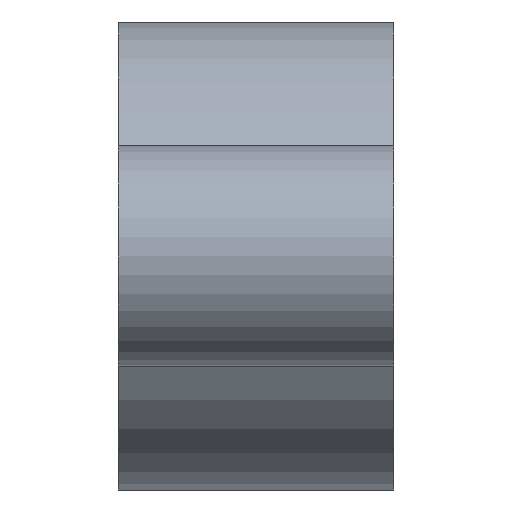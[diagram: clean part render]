
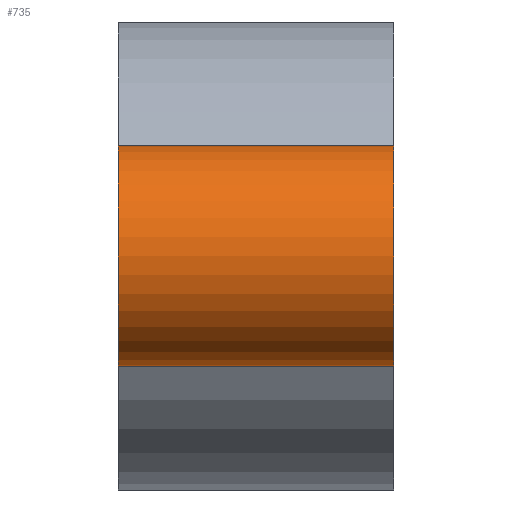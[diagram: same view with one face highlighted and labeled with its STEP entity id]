
A CAD part, front view. The second image highlights one B-rep face of the part: STEP entity #735.
In plain terms, the highlighted cylindrical face has radius 4 mm (diameter 8 mm), a partial arc.
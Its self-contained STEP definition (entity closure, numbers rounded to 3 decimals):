
#33 = PLANE('',#34);
#34 = AXIS2_PLACEMENT_3D('',#35,#36,#37);
#35 = CARTESIAN_POINT('',(-5.,0.,-6.));
#36 = DIRECTION('',(1.,0.,0.));
#37 = DIRECTION('',(0.,0.,1.));
#180 = VERTEX_POINT('',#181);
#181 = CARTESIAN_POINT('',(-5.,-15.,4.));
#195 = PLANE('',#196);
#196 = AXIS2_PLACEMENT_3D('',#197,#198,#199);
#197 = CARTESIAN_POINT('',(-5.,-15.,4.));
#198 = DIRECTION('',(0.,0.,1.));
#199 = DIRECTION('',(1.,0.,0.));
#207 = EDGE_CURVE('',#208,#180,#210,.T.);
#208 = VERTEX_POINT('',#209);
#209 = CARTESIAN_POINT('',(-5.,-15.,-4.));
#210 = SURFACE_CURVE('',#211,(#216,#227),.PCURVE_S1.);
#211 = CIRCLE('',#212,4.);
#212 = AXIS2_PLACEMENT_3D('',#213,#214,#215);
#213 = CARTESIAN_POINT('',(-5.,-15.,0.));
#214 = DIRECTION('',(-1.,-0.,-0.));
#215 = DIRECTION('',(0.,0.,-1.));
#216 = PCURVE('',#33,#217);
#217 = DEFINITIONAL_REPRESENTATION('',(#218),#226);
#218 = ( BOUNDED_CURVE() B_SPLINE_CURVE(2,(#219,#220,#221,#222,#223,#224
,#225),.UNSPECIFIED.,.T.,.F.) B_SPLINE_CURVE_WITH_KNOTS((1,2,2,2,2,1),(
    -2.094,0.,2.094,4.189,6.283,
8.378),.UNSPECIFIED.) CURVE() GEOMETRIC_REPRESENTATION_ITEM() 
RATIONAL_B_SPLINE_CURVE((1.,0.5,1.,0.5,1.,0.5,1.)) REPRESENTATION_ITEM(
  '') );
#219 = CARTESIAN_POINT('',(2.,15.));
#220 = CARTESIAN_POINT('',(2.,21.928));
#221 = CARTESIAN_POINT('',(8.,18.464));
#222 = CARTESIAN_POINT('',(14.,15.));
#223 = CARTESIAN_POINT('',(8.,11.536));
#224 = CARTESIAN_POINT('',(2.,8.072));
#225 = CARTESIAN_POINT('',(2.,15.));
#226 = ( GEOMETRIC_REPRESENTATION_CONTEXT(2) 
PARAMETRIC_REPRESENTATION_CONTEXT() REPRESENTATION_CONTEXT('2D SPACE',''
  ) );
#227 = PCURVE('',#228,#233);
#228 = CYLINDRICAL_SURFACE('',#229,4.);
#229 = AXIS2_PLACEMENT_3D('',#230,#231,#232);
#230 = CARTESIAN_POINT('',(-5.,-15.,0.));
#231 = DIRECTION('',(-1.,-0.,-0.));
#232 = DIRECTION('',(0.,-1.,0.));
#233 = DEFINITIONAL_REPRESENTATION('',(#234),#238);
#234 = LINE('',#235,#236);
#235 = CARTESIAN_POINT('',(-7.854,0.));
#236 = VECTOR('',#237,1.);
#237 = DIRECTION('',(1.,-0.));
#238 = ( GEOMETRIC_REPRESENTATION_CONTEXT(2) 
PARAMETRIC_REPRESENTATION_CONTEXT() REPRESENTATION_CONTEXT('2D SPACE',''
  ) );
#254 = PLANE('',#255);
#255 = AXIS2_PLACEMENT_3D('',#256,#257,#258);
#256 = CARTESIAN_POINT('',(-5.,-15.,-4.));
#257 = DIRECTION('',(0.,0.,1.));
#258 = DIRECTION('',(1.,0.,0.));
#468 = PLANE('',#469);
#469 = AXIS2_PLACEMENT_3D('',#470,#471,#472);
#470 = CARTESIAN_POINT('',(5.,0.,0.));
#471 = DIRECTION('',(1.,0.,0.));
#472 = DIRECTION('',(-0.,0.,1.));
#644 = EDGE_CURVE('',#208,#645,#647,.T.);
#645 = VERTEX_POINT('',#646);
#646 = CARTESIAN_POINT('',(5.,-15.,-4.));
#647 = SURFACE_CURVE('',#648,(#652,#659),.PCURVE_S1.);
#648 = LINE('',#649,#650);
#649 = CARTESIAN_POINT('',(-5.,-15.,-4.));
#650 = VECTOR('',#651,1.);
#651 = DIRECTION('',(1.,0.,0.));
#652 = PCURVE('',#254,#653);
#653 = DEFINITIONAL_REPRESENTATION('',(#654),#658);
#654 = LINE('',#655,#656);
#655 = CARTESIAN_POINT('',(0.,0.));
#656 = VECTOR('',#657,1.);
#657 = DIRECTION('',(1.,0.));
#658 = ( GEOMETRIC_REPRESENTATION_CONTEXT(2) 
PARAMETRIC_REPRESENTATION_CONTEXT() REPRESENTATION_CONTEXT('2D SPACE',''
  ) );
#659 = PCURVE('',#228,#660);
#660 = DEFINITIONAL_REPRESENTATION('',(#661),#664);
#661 = B_SPLINE_CURVE_WITH_KNOTS('',1,(#662,#663),.UNSPECIFIED.,.F.,.F.,
  (2,2),(0.,10.),.PIECEWISE_BEZIER_KNOTS.);
#662 = CARTESIAN_POINT('',(-7.854,0.));
#663 = CARTESIAN_POINT('',(-7.854,-10.));
#664 = ( GEOMETRIC_REPRESENTATION_CONTEXT(2) 
PARAMETRIC_REPRESENTATION_CONTEXT() REPRESENTATION_CONTEXT('2D SPACE',''
  ) );
#735 = ADVANCED_FACE('',(#736),#228,.T.);
#736 = FACE_BOUND('',#737,.F.);
#737 = EDGE_LOOP('',(#738,#739,#761,#783));
#738 = ORIENTED_EDGE('',*,*,#207,.T.);
#739 = ORIENTED_EDGE('',*,*,#740,.T.);
#740 = EDGE_CURVE('',#180,#741,#743,.T.);
#741 = VERTEX_POINT('',#742);
#742 = CARTESIAN_POINT('',(5.,-15.,4.));
#743 = SURFACE_CURVE('',#744,(#748,#754),.PCURVE_S1.);
#744 = LINE('',#745,#746);
#745 = CARTESIAN_POINT('',(-5.,-15.,4.));
#746 = VECTOR('',#747,1.);
#747 = DIRECTION('',(1.,0.,0.));
#748 = PCURVE('',#228,#749);
#749 = DEFINITIONAL_REPRESENTATION('',(#750),#753);
#750 = B_SPLINE_CURVE_WITH_KNOTS('',1,(#751,#752),.UNSPECIFIED.,.F.,.F.,
  (2,2),(0.,10.),.PIECEWISE_BEZIER_KNOTS.);
#751 = CARTESIAN_POINT('',(-4.712,0.));
#752 = CARTESIAN_POINT('',(-4.712,-10.));
#753 = ( GEOMETRIC_REPRESENTATION_CONTEXT(2) 
PARAMETRIC_REPRESENTATION_CONTEXT() REPRESENTATION_CONTEXT('2D SPACE',''
  ) );
#754 = PCURVE('',#195,#755);
#755 = DEFINITIONAL_REPRESENTATION('',(#756),#760);
#756 = LINE('',#757,#758);
#757 = CARTESIAN_POINT('',(0.,0.));
#758 = VECTOR('',#759,1.);
#759 = DIRECTION('',(1.,0.));
#760 = ( GEOMETRIC_REPRESENTATION_CONTEXT(2) 
PARAMETRIC_REPRESENTATION_CONTEXT() REPRESENTATION_CONTEXT('2D SPACE',''
  ) );
#761 = ORIENTED_EDGE('',*,*,#762,.T.);
#762 = EDGE_CURVE('',#741,#645,#763,.T.);
#763 = SURFACE_CURVE('',#764,(#769,#776),.PCURVE_S1.);
#764 = CIRCLE('',#765,4.);
#765 = AXIS2_PLACEMENT_3D('',#766,#767,#768);
#766 = CARTESIAN_POINT('',(5.,-15.,0.));
#767 = DIRECTION('',(1.,0.,-0.));
#768 = DIRECTION('',(0.,0.,1.));
#769 = PCURVE('',#228,#770);
#770 = DEFINITIONAL_REPRESENTATION('',(#771),#775);
#771 = LINE('',#772,#773);
#772 = CARTESIAN_POINT('',(-4.712,-10.));
#773 = VECTOR('',#774,1.);
#774 = DIRECTION('',(-1.,0.));
#775 = ( GEOMETRIC_REPRESENTATION_CONTEXT(2) 
PARAMETRIC_REPRESENTATION_CONTEXT() REPRESENTATION_CONTEXT('2D SPACE',''
  ) );
#776 = PCURVE('',#468,#777);
#777 = DEFINITIONAL_REPRESENTATION('',(#778),#782);
#778 = CIRCLE('',#779,4.);
#779 = AXIS2_PLACEMENT_2D('',#780,#781);
#780 = CARTESIAN_POINT('',(0.,15.));
#781 = DIRECTION('',(1.,0.));
#782 = ( GEOMETRIC_REPRESENTATION_CONTEXT(2) 
PARAMETRIC_REPRESENTATION_CONTEXT() REPRESENTATION_CONTEXT('2D SPACE',''
  ) );
#783 = ORIENTED_EDGE('',*,*,#644,.F.);
